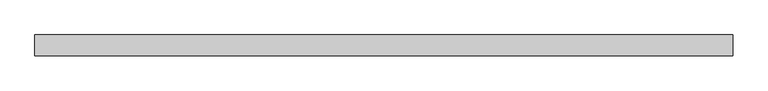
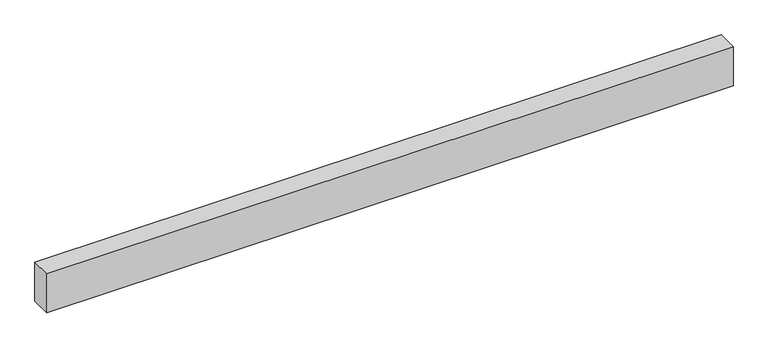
"""IFC4 building model written with IfcOpenShell, lengths in millimetres: beam geometry, Бетон-Балка прямоугольного сечения : 300 x 600 мм."""

from ifc_helpers import new_model, si_unit, frame, origin, place, context, project, spatial, polyline, outline, extrude, source, transform, mapped, element, save


def beam_4ad44b27(model_context):
    return source(origin(), model_context, "Body", "SweptSolid", [
        extrude(outline(polyline([(5010.0, 150.0), (5010.0, -150.0), (-5010.0, -150.0), (-5010.0, 150.0), (5010.0, 150.0)])), frame((0.0, 0.0, -300.0), z_axis=(0.0, 0.0, 1.0), x_axis=(1.0, 0.0, 0.0)), (0.0, 0.0, 1.0), 600.0),
    ])


if __name__ == "__main__":
    model = new_model("IFC4")
    model_context = context("Model", 3, world=origin())
    ifc_project = project(units=[si_unit("LENGTHUNIT", "METRE", prefix="MILLI")], contexts=[model_context])
    site = spatial("IfcSite", under=ifc_project)
    building = spatial("IfcBuilding", under=site)
    placement = place(None, origin())
    beam_shape = beam_4ad44b27(model_context)
    element("IfcBeam", 1, ObjectType="Бетон-Балка прямоугольного сечения : 300 x 600 мм", at=placement, inside=building, context=model_context, shape_type="MappedRepresentation", body=[
        mapped(beam_shape, transform((0.0, 0.0, 0.0), x_axis=(1.0, 0.0, 0.0), y_axis=(0.0, 1.0, 0.0), z_axis=(0.0, 0.0, 1.0))),
    ])
    save(model, "model.ifc")
